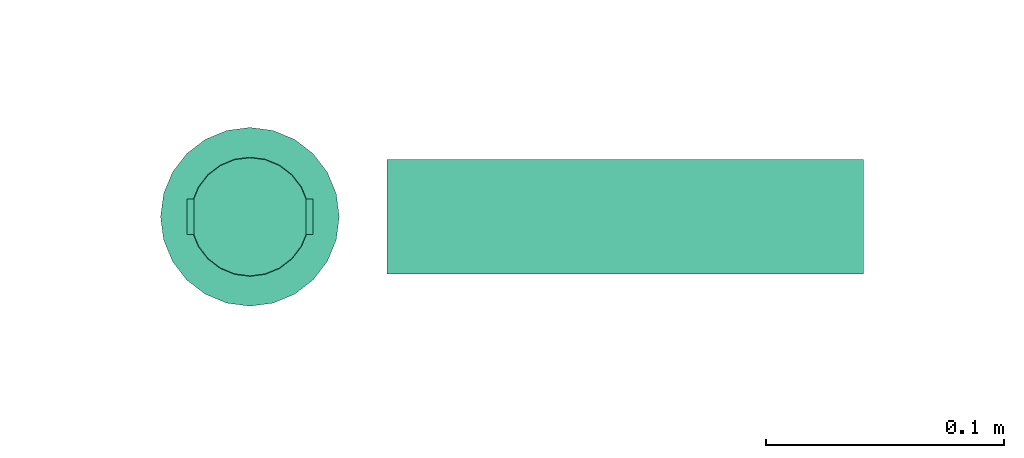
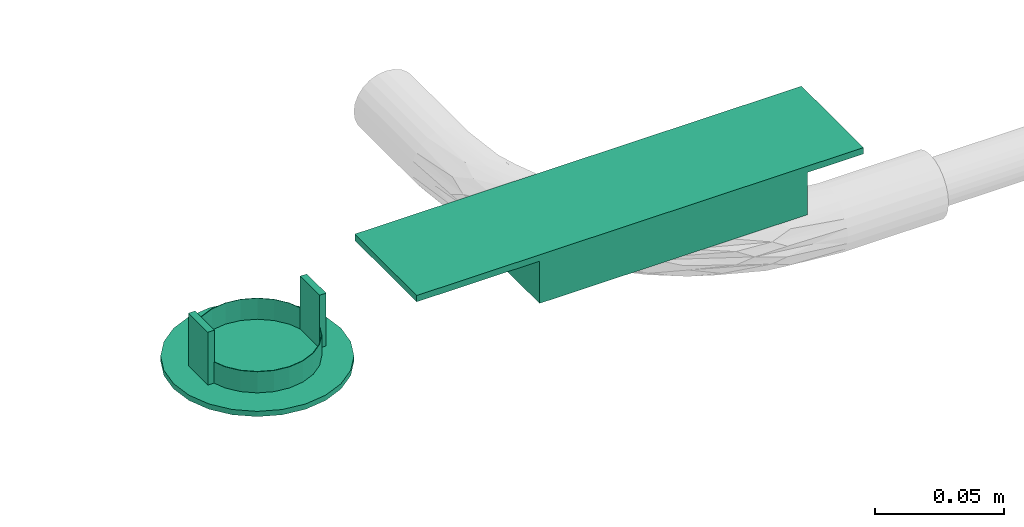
# One storey, part 12 of 51: 1 flow terminal.
"""IFC2X3 building model written with IfcOpenShell, lengths in millimetres."""

from ifc_helpers import new_model, entity, si_unit, converted_unit, derived_unit, direction, frame, origin_with_axes, place, context, subcontext, project, spatial, open_shell, surface_model, source, transform, mapped, type_object, element, save


model = new_model("IFC2X3")

# Units and contexts
model_context = context("Model", 3, precision=0.01, world=frame((0.0, 4.29681676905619e-09, 0.0)), true_north=direction((4.01073788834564e-13, 1.0)))
plan_context = context("Plan", 3, precision=0.01, world=frame((0.0, 4.29681676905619e-09, 0.0)), true_north=direction((4.01073788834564e-13, 1.0)))
body_context = subcontext(model_context, "Body", "Model", "MODEL_VIEW")
ifc_project = project(units=[converted_unit("PLANEANGLEUNIT", "DEGREE", entity("IfcPositiveLengthMeasure", 0.0174532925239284), si_unit("PLANEANGLEUNIT", "RADIAN"), dimensions=[0, 0, 0, 0, 0, 0, 0]), si_unit("AREAUNIT", "SQUARE_METRE"), si_unit("LENGTHUNIT", "METRE", prefix="MILLI"), si_unit("MASSUNIT", "GRAM", prefix="KILO"), si_unit("POWERUNIT", "WATT"), si_unit("PRESSUREUNIT", "PASCAL"), si_unit("FORCEUNIT", "NEWTON", prefix="KILO"), si_unit("ELECTRICVOLTAGEUNIT", "VOLT"), si_unit("ELECTRICCURRENTUNIT", "AMPERE"), si_unit("THERMODYNAMICTEMPERATUREUNIT", "DEGREE_CELSIUS"), si_unit("TIMEUNIT", "SECOND"), si_unit("VOLUMEUNIT", "CUBIC_METRE"), derived_unit("LINEARVELOCITYUNIT", [(si_unit("LENGTHUNIT", "METRE"), 1), (si_unit("TIMEUNIT", "SECOND"), -1)]), derived_unit("VOLUMETRICFLOWRATEUNIT", [(si_unit("VOLUMEUNIT", "CUBIC_METRE"), 1), (si_unit("TIMEUNIT", "SECOND"), -1)]), derived_unit("THERMALTRANSMITTANCEUNIT", [(si_unit("POWERUNIT", "WATT"), 1), (si_unit("THERMODYNAMICTEMPERATUREUNIT", "KELVIN"), -1), (si_unit("AREAUNIT", "SQUARE_METRE"), -1)]), derived_unit("SOUNDPRESSUREUNIT", [(si_unit("PRESSUREUNIT", "PASCAL"), 1)])], contexts=[model_context, plan_context])

# Site, building, storey
site_placement = place(None, frame((0.0, -4.29681676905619e-09, 0.0), z_axis=(0.0, 0.0, 1.0), x_axis=(1.0, 0.0, 0.0)))
site = spatial("IfcSite", under=ifc_project, at=site_placement, Name="ENGM", CompositionType="ELEMENT")
building_placement = place(site_placement, frame((0.0, 4.29681676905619e-09, 0.0), z_axis=(0.0, 0.0, 1.0), x_axis=(1.0, 0.0, 0.0)))
building = spatial("IfcBuilding", under=site, at=building_placement, Name="TI", CompositionType="ELEMENT")
storey_placement = place(building_placement, frame((0.0, 0.0, 210900.0), z_axis=(0.0, 0.0, 1.0), x_axis=(1.0, 0.0, 0.0)))
storey = spatial("IfcBuildingStorey", under=building, at=storey_placement, Name="Nivå F", CompositionType="ELEMENT", Elevation=210900.0)

# Flow terminal
light_fixture_type = type_object("IfcLightFixtureType", Name="IB7405 Zumtobel Resclite C Antipanic ED NDA WH", PredefinedType="NOTDEFINED")
shared_shape = source(origin_with_axes(), body_context, "Body", "SurfaceModel", [
    surface_model("IfcShellBasedSurfaceModel", [(6.47048, -24.14815, -4.9), (12.5, -21.65064, -4.9), (17.67767, -17.67767, -4.9), (24.14815, -6.47048, -4.9), (-24.14815, -6.47048, -4.9), (21.65064, -12.5, -4.9), (-21.65064, 12.5, -4.9), (0.0, -25.0, -4.9), (-12.5, -21.65064, -4.9), (-6.47048, -24.14815, -4.9), (-17.67767, -17.67767, -4.9), (-21.65064, -12.5, -4.9), (25.0, 0.0, -4.9), (24.14815, 6.47048, -4.9), (21.65064, 12.5, -4.9), (17.67767, 17.67767, -4.9), (12.5, 21.65064, -4.9), (6.47048, 24.14815, -4.9), (0.0, 25.0, -4.9), (-25.0, 0.0, -4.9), (-24.14815, 6.47048, -4.9), (-12.5, 21.65064, -4.9), (-17.67767, 17.67767, -4.9), (-6.47048, 24.14815, -4.9), (0.0, 25.0, -5.1), (6.47048, 24.14815, -5.1), (12.5, 21.65064, -5.1), (-21.65064, 12.5, -5.1), (17.67767, 17.67767, -5.1), (21.65064, 12.5, -5.1), (24.14815, 6.47048, -5.1), (-12.5, 21.65064, -5.1), (-17.67767, 17.67767, -5.1), (-6.47048, 24.14815, -5.1), (-25.0, 0.0, -5.1), (-24.14815, 6.47048, -5.1), (-24.14815, -6.47048, -5.1), (24.14815, -6.47048, -5.1), (6.47048, -24.14815, -5.1), (21.65064, -12.5, -5.1), (17.67767, -17.67767, -5.1), (12.5, -21.65064, -5.1), (-12.5, -21.65064, -5.1), (-17.67767, -17.67767, -5.1), (-21.65064, -12.5, -5.1), (0.0, -25.0, -5.1), (-6.47048, -24.14815, -5.1), (25.0, 0.0, -5.1), (232.5, -24.0, 0.0), (232.5, 24.0, 0.0), (232.5, 24.0, 20.0), (232.5, -24.0, 20.0), (112.5, -24.0, 20.0), (112.5, 24.0, 20.0), (112.5, 24.0, 0.0), (112.5, -24.0, 0.0), (57.5, 24.0, 23.0), (57.5, -24.0, 23.0), (257.5, 24.0, 23.0), (257.5, -24.0, 23.0), (257.5, 24.0, 20.0), (257.5, -24.0, 20.0), (57.5, 24.0, 20.0), (57.5, -24.0, 20.0), (23.5, -7.5, 25.0), (26.5, -7.5, 25.0), (23.5, 7.5, 25.0), (26.5, 7.5, 25.0), (23.5, 7.5, 0.0), (26.5, 7.5, 0.0), (23.5, -7.5, 0.0), (26.5, -7.5, 0.0), (-26.5, -7.5, 25.0), (-23.5, -7.5, 25.0), (-26.5, 7.5, 25.0), (-23.5, 7.5, 25.0), (-26.5, 7.5, 0.0), (-23.5, 7.5, 0.0), (-26.5, -7.5, 0.0), (-23.5, -7.5, 0.0), (-20.22543, -14.69463, -5.0), (-25.0, 0.0, -5.0), (7.72542, -23.77641, -5.0), (-7.72542, -23.77641, -5.0), (20.22543, -14.69463, -5.0), (-7.72542, 23.77641, -5.0), (7.72542, 23.77641, -5.0), (20.22543, 14.69463, -5.0), (25.0, 0.0, -5.0), (-20.22543, 14.69463, -5.0), (0.0, -37.5, -2.5), (18.75, -32.47595, -2.5), (32.47595, -18.75, -2.5), (-18.75, -32.47595, -2.5), (-37.5, 0.0, -2.5), (-32.47595, -18.75, -2.5), (18.75, 32.47595, -2.5), (32.47595, 18.75, -2.5), (0.0, 37.5, -2.5), (-32.47595, 18.75, -2.5), (-18.75, 32.47595, -2.5), (37.5, 0.0, -2.5), (22.61271, 7.34732, -5.0), (34.29463, 11.96261, -2.5), (25.61298, 25.61298, -2.5), (13.97542, 19.23552, -5.0), (-13.97542, 19.23552, -5.0), (-34.29463, 11.96261, -2.5), (-22.61271, 7.34732, -5.0), (-25.61298, 25.61298, -2.5), (0.0, 23.77641, -5.0), (9.375, 34.98798, -2.5), (-9.375, 34.98798, -2.5), (-22.61271, -7.34732, -5.0), (-34.29463, -11.96261, -2.5), (-25.61298, -25.61298, -2.5), (-13.97542, -19.23552, -5.0), (13.97542, -19.23552, -5.0), (34.29463, -11.96261, -2.5), (22.61271, -7.34732, -5.0), (25.61298, -25.61298, -2.5), (0.0, -23.77641, -5.0), (-9.375, -34.98798, -2.5), (9.375, -34.98798, -2.5), (12.5, -21.65064, 10.0), (17.67767, -17.67767, 10.0), (12.4, -21.47743, 10.0), (6.41871, -23.95496, 10.0), (0.0, -24.8, 10.0), (6.47048, -24.14815, 10.0), (0.0, -25.0, 10.0), (17.53625, -17.53625, 10.0), (24.14815, -6.47048, 10.0), (24.8, 0.0, 10.0), (23.95496, -6.41871, 10.0), (25.0, 0.0, 10.0), (21.65064, -12.5, 10.0), (21.47743, -12.4, 10.0), (-6.41871, -23.95496, 10.0), (-6.47048, -24.14815, 10.0), (-12.4, -21.47743, 10.0), (-17.67767, -17.67767, 10.0), (-12.5, -21.65064, 10.0), (-17.53625, -17.53625, 10.0), (-21.47743, -12.4, 10.0), (-21.65064, -12.5, 10.0), (-23.95496, -6.41871, 10.0), (-24.14815, -6.47048, 10.0), (-24.8, 0.0, 10.0), (-25.0, 0.0, 10.0), (24.14815, 6.47048, 10.0), (23.95496, 6.41871, 10.0), (21.47743, 12.4, 10.0), (21.65064, 12.5, 10.0), (17.53625, 17.53625, 10.0), (17.67767, 17.67767, 10.0), (12.5, 21.65064, 10.0), (12.4, 21.47743, 10.0), (6.41871, 23.95496, 10.0), (6.47048, 24.14815, 10.0), (0.0, 24.8, 10.0), (0.0, 25.0, 10.0), (-21.65064, 12.5, 10.0), (-21.47743, 12.4, 10.0), (-17.67767, 17.67767, 10.0), (-17.53625, 17.53625, 10.0), (-24.14815, 6.47048, 10.0), (-23.95496, 6.41871, 10.0), (-6.41871, 23.95496, 10.0), (-6.47048, 24.14815, 10.0), (-12.4, 21.47743, 10.0), (-12.5, 21.65064, 10.0), (12.5, 21.65064, 0.0), (17.67767, 17.67767, 0.0), (12.4, 21.47743, 0.0), (6.41871, 23.95496, 0.0), (0.0, 24.8, 0.0), (6.47048, 24.14815, 0.0), (0.0, 25.0, 0.0), (17.53625, 17.53625, 0.0), (24.14815, 6.47048, 0.0), (24.8, 0.0, 0.0), (23.95496, 6.41871, 0.0), (25.0, 0.0, 0.0), (21.65064, 12.5, 0.0), (21.47743, 12.4, 0.0), (-6.41871, 23.95496, 0.0), (-6.47048, 24.14815, 0.0), (-12.4, 21.47743, 0.0), (-17.67767, 17.67767, 0.0), (-12.5, 21.65064, 0.0), (-17.53625, 17.53625, 0.0), (-21.47743, 12.4, 0.0), (-21.65064, 12.5, 0.0), (-23.95496, 6.41871, 0.0), (-24.14815, 6.47048, 0.0), (-24.8, 0.0, 0.0), (-25.0, 0.0, 0.0), (24.14815, -6.47048, 0.0), (23.95496, -6.41871, 0.0), (21.47743, -12.4, 0.0), (21.65064, -12.5, 0.0), (17.53625, -17.53625, 0.0), (17.67767, -17.67767, 0.0), (12.5, -21.65064, 0.0), (12.4, -21.47743, 0.0), (6.41871, -23.95496, 0.0), (6.47048, -24.14815, 0.0), (0.0, -24.8, 0.0), (0.0, -25.0, 0.0), (-21.65064, -12.5, 0.0), (-21.47743, -12.4, 0.0), (-17.67767, -17.67767, 0.0), (-17.53625, -17.53625, 0.0), (-24.14815, -6.47048, 0.0), (-23.95496, -6.41871, 0.0), (-6.41871, -23.95496, 0.0), (-6.47048, -24.14815, 0.0), (-12.4, -21.47743, 0.0), (-12.5, -21.65064, 0.0), (9.70571, -36.22222, 0.0), (18.75, -32.47595, 0.0), (26.5165, -26.5165, 0.0), (32.47595, -18.75, 0.0), (36.22222, -9.70571, 0.0), (0.0, -37.5, 0.0), (36.22222, 9.70571, 0.0), (-36.22222, -9.70571, 0.0), (-18.75, -32.47595, 0.0), (-9.70571, -36.22222, 0.0), (-26.5165, -26.5165, 0.0), (-32.47595, -18.75, 0.0), (37.5, 0.0, 0.0), (32.47595, 18.75, 0.0), (26.5165, 26.5165, 0.0), (0.0, 37.5, 0.0), (9.70571, 36.22222, 0.0), (18.75, 32.47595, 0.0), (-26.5165, 26.5165, 0.0), (-36.22222, 9.70571, 0.0), (-32.47595, 18.75, 0.0), (-37.5, 0.0, 0.0), (-9.70571, 36.22222, 0.0), (-18.75, 32.47595, 0.0), (26.5165, 26.5165, -2.5), (18.65, 32.30275, -2.5), (9.65395, 36.02903, -2.5), (0.0, 37.3, -2.5), (9.70571, 36.22222, -2.5), (26.37508, 26.37508, -2.5), (36.22222, 9.70571, -2.5), (37.3, 0.0, -2.5), (36.02903, 9.65395, -2.5), (32.30275, 18.65, -2.5), (-9.65395, 36.02903, -2.5), (-9.70571, 36.22222, -2.5), (-18.65, 32.30275, -2.5), (-26.5165, 26.5165, -2.5), (-26.37508, 26.37508, -2.5), (-32.30275, 18.65, -2.5), (-36.02903, 9.65395, -2.5), (-36.22222, 9.70571, -2.5), (-37.3, 0.0, -2.5), (36.22222, -9.70571, -2.5), (36.02903, -9.65395, -2.5), (32.30275, -18.65, -2.5), (26.37508, -26.37508, -2.5), (26.5165, -26.5165, -2.5), (18.65, -32.30275, -2.5), (9.65395, -36.02903, -2.5), (9.70571, -36.22222, -2.5), (0.0, -37.3, -2.5), (-32.30275, -18.65, -2.5), (-26.5165, -26.5165, -2.5), (-26.37508, -26.37508, -2.5), (-36.22222, -9.70571, -2.5), (-36.02903, -9.65395, -2.5), (-9.65395, -36.02903, -2.5), (-9.70571, -36.22222, -2.5), (-18.65, -32.30275, -2.5), (26.37508, -26.37508, -0.2), (18.65, -32.30275, -0.2), (9.65395, -36.02903, -0.2), (0.0, -37.3, -0.2), (36.02903, -9.65395, -0.2), (32.30275, -18.65, -0.2), (36.02903, 9.65395, -0.2), (-9.65395, -36.02903, -0.2), (-18.65, -32.30275, -0.2), (-32.30275, -18.65, -0.2), (-26.37508, -26.37508, -0.2), (-37.3, 0.0, -0.2), (-36.02903, -9.65395, -0.2), (37.3, 0.0, -0.2), (26.37508, 26.37508, -0.2), (32.30275, 18.65, -0.2), (0.0, 37.3, -0.2), (9.65395, 36.02903, -0.2), (18.65, 32.30275, -0.2), (-9.65395, 36.02903, -0.2), (-32.30275, 18.65, -0.2), (-26.37508, 26.37508, -0.2), (-36.02903, 9.65395, -0.2), (-18.65, 32.30275, -0.2)], [open_shell([[[0, 1, 2]], [[0, 2, 3]], [[0, 3, 4]], [[3, 2, 5]], [[6, 4, 3]], [[7, 8, 9]], [[7, 0, 8]], [[10, 4, 11]], [[10, 8, 0]], [[4, 10, 0]], [[3, 12, 6]], [[13, 14, 15]], [[13, 15, 16]], [[16, 17, 18]], [[13, 16, 6]], [[6, 16, 18]], [[19, 6, 20]], [[4, 6, 19]], [[6, 21, 22]], [[21, 6, 23]], [[18, 23, 6]], [[6, 12, 13]], [[24, 25, 26]], [[27, 24, 26]], [[28, 29, 30]], [[28, 30, 26]], [[27, 26, 30]], [[31, 27, 32]], [[27, 31, 33]], [[27, 34, 35]], [[27, 33, 24]], [[27, 36, 34]], [[27, 30, 37]], [[36, 27, 37]], [[38, 37, 39]], [[40, 41, 38]], [[40, 38, 39]], [[42, 37, 38]], [[36, 43, 44]], [[36, 37, 43]], [[42, 45, 46]], [[43, 37, 42]], [[38, 45, 42]], [[37, 30, 47]], [[36, 4, 34]], [[44, 11, 36]], [[8, 43, 42]], [[44, 43, 10]], [[9, 42, 46]], [[36, 11, 4]], [[4, 19, 34]], [[9, 8, 42]], [[10, 43, 8]], [[10, 11, 44]], [[7, 9, 46]], [[46, 45, 7]], [[38, 0, 45]], [[41, 1, 38]], [[5, 40, 39]], [[41, 40, 2]], [[3, 39, 37]], [[41, 2, 1]], [[1, 0, 38]], [[12, 3, 37]], [[5, 39, 3]], [[5, 2, 40]], [[47, 12, 37]], [[45, 0, 7]], [[30, 13, 47]], [[29, 14, 30]], [[16, 28, 26]], [[29, 28, 15]], [[17, 26, 25]], [[30, 14, 13]], [[13, 12, 47]], [[17, 16, 26]], [[15, 28, 16]], [[15, 14, 29]], [[18, 17, 25]], [[25, 24, 18]], [[33, 23, 24]], [[31, 21, 33]], [[6, 32, 27]], [[31, 32, 22]], [[20, 27, 35]], [[31, 22, 21]], [[21, 23, 33]], [[19, 20, 35]], [[6, 27, 20]], [[6, 22, 32]], [[34, 19, 35]], [[24, 23, 18]], [[48, 49, 50]], [[50, 51, 48]], [[52, 53, 54]], [[54, 55, 52]], [[50, 49, 54]], [[54, 53, 50]], [[51, 50, 53]], [[53, 52, 51]], [[48, 51, 52]], [[52, 55, 48]], [[49, 48, 55]], [[55, 54, 49]], [[56, 57, 58]], [[59, 58, 57]], [[60, 61, 62]], [[63, 62, 61]], [[59, 57, 63]], [[63, 61, 59]], [[58, 59, 61]], [[61, 60, 58]], [[56, 58, 60]], [[60, 62, 56]], [[57, 56, 62]], [[62, 63, 57]], [[64, 65, 66]], [[67, 66, 65]], [[68, 69, 70]], [[71, 70, 69]], [[67, 65, 71]], [[71, 69, 67]], [[66, 67, 68]], [[69, 68, 67]], [[64, 66, 68]], [[68, 70, 64]], [[65, 64, 71]], [[70, 71, 64]], [[72, 73, 74]], [[75, 74, 73]], [[76, 77, 78]], [[79, 78, 77]], [[75, 73, 79]], [[79, 77, 75]], [[74, 75, 76]], [[77, 76, 75]], [[72, 74, 76]], [[76, 78, 72]], [[73, 72, 79]], [[78, 79, 72]], [[80, 81, 82]], [[80, 82, 83]], [[82, 81, 84]], [[81, 85, 84]], [[86, 84, 85]], [[84, 87, 88]], [[84, 86, 87]], [[85, 81, 89]], [[90, 91, 92]], [[90, 92, 93]], [[93, 94, 95]], [[96, 94, 93]], [[93, 92, 96]], [[97, 96, 92]], [[98, 94, 96]], [[99, 98, 100]], [[99, 94, 98]], [[92, 101, 97]], [[102, 101, 88]], [[97, 103, 102]], [[104, 87, 105]], [[97, 102, 87]], [[101, 102, 103]], [[100, 85, 106]], [[97, 87, 104]], [[105, 86, 96]], [[105, 96, 104]], [[94, 107, 108]], [[99, 108, 107]], [[108, 81, 94]], [[89, 99, 109]], [[110, 111, 86]], [[85, 100, 112]], [[111, 110, 98]], [[106, 89, 109]], [[89, 108, 99]], [[100, 106, 109]], [[85, 112, 110]], [[110, 112, 98]], [[111, 96, 86]], [[113, 94, 81]], [[95, 114, 113]], [[115, 80, 116]], [[95, 113, 80]], [[94, 113, 114]], [[91, 82, 117]], [[95, 80, 115]], [[116, 83, 93]], [[116, 93, 115]], [[101, 118, 119]], [[92, 119, 118]], [[119, 88, 101]], [[84, 92, 120]], [[121, 122, 83]], [[82, 91, 123]], [[122, 121, 90]], [[117, 84, 120]], [[84, 119, 92]], [[91, 117, 120]], [[82, 123, 121]], [[121, 123, 90]], [[122, 93, 83]], [[124, 125, 126]], [[124, 126, 127]], [[128, 129, 127]], [[129, 128, 130]], [[127, 129, 124]], [[126, 125, 131]], [[132, 133, 134]], [[133, 132, 135]], [[132, 134, 136]], [[131, 136, 137]], [[136, 131, 125]], [[137, 136, 134]], [[130, 138, 139]], [[139, 138, 140]], [[141, 142, 143]], [[140, 142, 139]], [[140, 143, 142]], [[130, 128, 138]], [[144, 145, 141]], [[145, 144, 146]], [[144, 141, 143]], [[147, 146, 148]], [[146, 147, 145]], [[147, 148, 149]], [[135, 150, 151]], [[151, 150, 152]], [[152, 153, 154]], [[153, 152, 150]], [[154, 153, 155]], [[155, 156, 157]], [[157, 156, 158]], [[158, 159, 160]], [[159, 158, 156]], [[160, 159, 161]], [[157, 154, 155]], [[162, 163, 164]], [[164, 163, 165]], [[163, 162, 166]], [[149, 167, 166]], [[166, 167, 163]], [[149, 148, 167]], [[168, 161, 169]], [[168, 169, 170]], [[165, 171, 164]], [[165, 170, 171]], [[171, 170, 169]], [[160, 161, 168]], [[151, 133, 135]], [[172, 173, 174]], [[172, 174, 175]], [[176, 177, 175]], [[177, 176, 178]], [[175, 177, 172]], [[174, 173, 179]], [[180, 181, 182]], [[181, 180, 183]], [[180, 182, 184]], [[179, 184, 185]], [[184, 179, 173]], [[185, 184, 182]], [[178, 186, 187]], [[187, 186, 188]], [[189, 190, 191]], [[188, 190, 187]], [[188, 191, 190]], [[178, 176, 186]], [[192, 193, 189]], [[193, 192, 194]], [[192, 189, 191]], [[195, 194, 196]], [[194, 195, 193]], [[195, 196, 197]], [[183, 198, 199]], [[199, 198, 200]], [[200, 201, 202]], [[201, 200, 198]], [[202, 201, 203]], [[203, 204, 205]], [[205, 204, 206]], [[206, 207, 208]], [[207, 206, 204]], [[208, 207, 209]], [[205, 202, 203]], [[210, 211, 212]], [[212, 211, 213]], [[211, 210, 214]], [[197, 215, 214]], [[214, 215, 211]], [[197, 196, 215]], [[216, 209, 217]], [[216, 217, 218]], [[213, 219, 212]], [[213, 218, 219]], [[219, 218, 217]], [[208, 209, 216]], [[199, 181, 183]], [[214, 147, 197]], [[210, 145, 214]], [[142, 212, 219]], [[210, 212, 141]], [[139, 219, 217]], [[214, 145, 147]], [[147, 149, 197]], [[139, 142, 219]], [[141, 212, 142]], [[141, 145, 210]], [[130, 139, 217]], [[217, 209, 130]], [[207, 129, 209]], [[204, 124, 207]], [[136, 203, 201]], [[204, 203, 125]], [[132, 201, 198]], [[204, 125, 124]], [[124, 129, 207]], [[135, 132, 198]], [[136, 201, 132]], [[136, 125, 203]], [[183, 135, 198]], [[209, 129, 130]], [[180, 150, 183]], [[184, 153, 180]], [[156, 173, 172]], [[184, 173, 155]], [[159, 172, 177]], [[180, 153, 150]], [[150, 135, 183]], [[159, 156, 172]], [[155, 173, 156]], [[155, 153, 184]], [[161, 159, 177]], [[177, 178, 161]], [[187, 169, 178]], [[190, 171, 187]], [[162, 189, 193]], [[190, 189, 164]], [[166, 193, 195]], [[190, 164, 171]], [[171, 169, 187]], [[149, 166, 195]], [[162, 193, 166]], [[162, 164, 189]], [[197, 149, 195]], [[178, 169, 161]], [[196, 146, 215]], [[215, 144, 211]], [[218, 213, 140]], [[143, 213, 211]], [[216, 218, 138]], [[146, 144, 215]], [[196, 148, 146]], [[218, 140, 138]], [[140, 213, 143]], [[211, 144, 143]], [[216, 138, 128]], [[128, 208, 216]], [[208, 127, 206]], [[206, 126, 205]], [[200, 202, 137]], [[131, 202, 205]], [[199, 200, 134]], [[126, 131, 205]], [[206, 127, 126]], [[199, 134, 133]], [[134, 200, 137]], [[202, 131, 137]], [[199, 133, 181]], [[128, 127, 208]], [[181, 151, 182]], [[182, 152, 185]], [[174, 179, 157]], [[154, 179, 185]], [[175, 174, 158]], [[151, 152, 182]], [[181, 133, 151]], [[174, 157, 158]], [[157, 179, 154]], [[185, 152, 154]], [[175, 158, 160]], [[160, 176, 175]], [[176, 168, 186]], [[186, 170, 188]], [[192, 191, 163]], [[165, 191, 188]], [[194, 192, 167]], [[170, 165, 188]], [[186, 168, 170]], [[194, 167, 148]], [[167, 192, 163]], [[191, 165, 163]], [[194, 148, 196]], [[160, 168, 176]], [[220, 221, 222]], [[220, 222, 223]], [[220, 224, 225]], [[224, 220, 223]], [[226, 227, 224]], [[225, 228, 229]], [[225, 224, 228]], [[224, 230, 228]], [[224, 231, 230]], [[227, 231, 224]], [[224, 232, 226]], [[226, 233, 234]], [[226, 234, 235]], [[236, 235, 234]], [[236, 234, 237]], [[238, 227, 235]], [[239, 238, 240]], [[238, 239, 241]], [[238, 242, 243]], [[241, 227, 238]], [[235, 242, 238]], [[235, 227, 226]], [[96, 244, 245]], [[96, 245, 246]], [[247, 248, 246]], [[248, 247, 98]], [[246, 248, 96]], [[245, 244, 249]], [[250, 251, 252]], [[251, 250, 101]], [[250, 252, 97]], [[249, 97, 253]], [[97, 249, 244]], [[253, 97, 252]], [[98, 254, 255]], [[255, 254, 256]], [[257, 100, 258]], [[256, 100, 255]], [[256, 258, 100]], [[98, 247, 254]], [[259, 99, 257]], [[99, 259, 260]], [[259, 257, 258]], [[261, 260, 262]], [[260, 261, 99]], [[261, 262, 94]], [[101, 263, 264]], [[264, 263, 265]], [[265, 92, 266]], [[92, 265, 263]], [[266, 92, 267]], [[267, 91, 268]], [[268, 91, 269]], [[269, 270, 271]], [[270, 269, 91]], [[271, 270, 90]], [[268, 266, 267]], [[95, 272, 273]], [[273, 272, 274]], [[272, 95, 275]], [[94, 276, 275]], [[275, 276, 272]], [[94, 262, 276]], [[277, 90, 278]], [[277, 278, 279]], [[274, 93, 273]], [[274, 279, 93]], [[93, 279, 278]], [[271, 90, 277]], [[264, 251, 101]], [[275, 227, 94]], [[95, 231, 275]], [[228, 273, 93]], [[95, 273, 230]], [[229, 93, 278]], [[275, 231, 227]], [[227, 241, 94]], [[229, 228, 93]], [[230, 273, 228]], [[230, 231, 95]], [[225, 229, 278]], [[278, 90, 225]], [[270, 220, 90]], [[91, 221, 270]], [[223, 267, 92]], [[91, 267, 222]], [[224, 92, 263]], [[91, 222, 221]], [[221, 220, 270]], [[232, 224, 263]], [[223, 92, 224]], [[223, 222, 267]], [[101, 232, 263]], [[90, 220, 225]], [[250, 226, 101]], [[97, 233, 250]], [[237, 244, 96]], [[97, 244, 234]], [[236, 96, 248]], [[250, 233, 226]], [[226, 232, 101]], [[236, 237, 96]], [[234, 244, 237]], [[234, 233, 97]], [[235, 236, 248]], [[248, 98, 235]], [[255, 242, 98]], [[100, 243, 255]], [[240, 257, 99]], [[100, 257, 238]], [[239, 99, 261]], [[100, 238, 243]], [[243, 242, 255]], [[241, 239, 261]], [[240, 99, 239]], [[240, 238, 257]], [[94, 241, 261]], [[98, 242, 235]], [[280, 281, 282]], [[280, 282, 283]], [[284, 280, 283]], [[285, 280, 284]], [[286, 284, 283]], [[287, 288, 283]], [[289, 283, 288]], [[290, 289, 288]], [[291, 283, 289]], [[292, 291, 289]], [[286, 293, 284]], [[294, 295, 286]], [[296, 294, 286]], [[296, 297, 298]], [[294, 296, 298]], [[299, 296, 286]], [[300, 301, 302]], [[286, 291, 302]], [[303, 299, 301]], [[302, 301, 299]], [[302, 299, 286]], [[283, 291, 286]], [[262, 292, 276]], [[276, 289, 272]], [[279, 274, 288]], [[290, 274, 272]], [[277, 279, 287]], [[292, 289, 276]], [[262, 291, 292]], [[279, 288, 287]], [[288, 274, 290]], [[272, 289, 290]], [[277, 287, 283]], [[283, 271, 277]], [[271, 282, 269]], [[269, 281, 268]], [[265, 266, 285]], [[280, 266, 268]], [[264, 265, 284]], [[281, 280, 268]], [[269, 282, 281]], [[264, 284, 293]], [[284, 265, 285]], [[266, 280, 285]], [[264, 293, 251]], [[283, 282, 271]], [[251, 286, 252]], [[252, 295, 253]], [[245, 249, 298]], [[294, 249, 253]], [[246, 245, 297]], [[286, 295, 252]], [[251, 293, 286]], [[245, 298, 297]], [[298, 249, 294]], [[253, 295, 294]], [[246, 297, 296]], [[296, 247, 246]], [[247, 299, 254]], [[254, 303, 256]], [[259, 258, 300]], [[301, 258, 256]], [[260, 259, 302]], [[303, 301, 256]], [[254, 299, 303]], [[260, 302, 291]], [[302, 259, 300]], [[258, 301, 300]], [[260, 291, 262]], [[296, 299, 247]]])]),
])
flow_terminal_placement = place(storey_placement, frame((609354.0, 696028.0, 2550.0), z_axis=(0.0, 0.0, 1.0), x_axis=(1.0, 0.0, 0.0)))
element("IfcFlowTerminal", 1, at=flow_terminal_placement, inside=storey, type_object=light_fixture_type, Name="IB7405 Zumtobel Resclite C Antipanic ED NDA WH", context=body_context, shape_type="MappedRepresentation", body=[
    mapped(shared_shape, transform((0.0, 0.0, 0.0), scale=1.0)),
])

save(model, "model.ifc")
